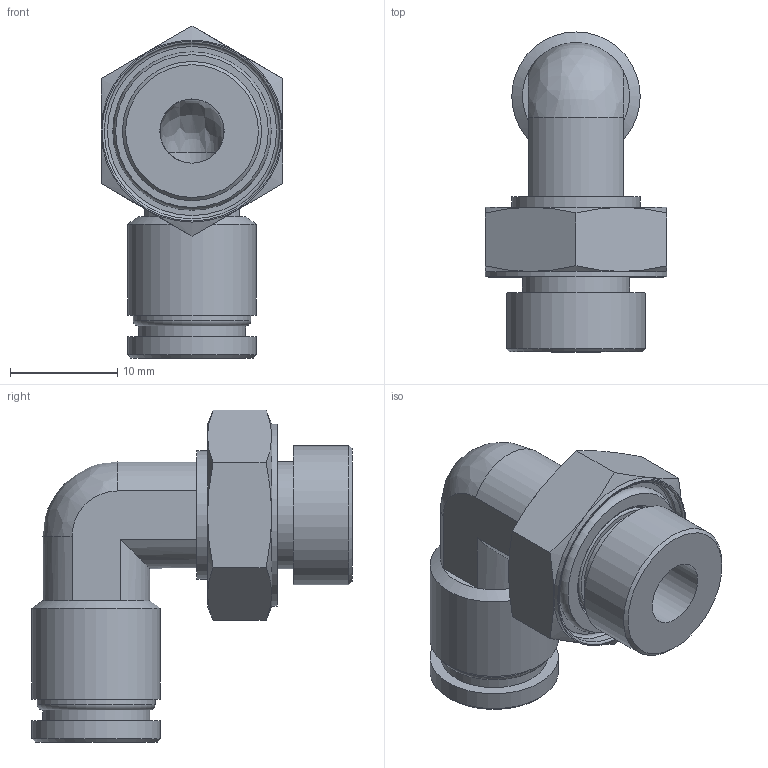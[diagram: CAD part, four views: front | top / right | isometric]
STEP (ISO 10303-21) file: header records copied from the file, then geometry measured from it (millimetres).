
FILE_DESCRIPTION(/* description */ (''),/* implementation_level */ '2;1');
FILE_NAME(/* name */ 'LXH28 0008 B2.stp',/* time_stamp */ '2026-04-30T12:41:08+02:00',/* author */ ('freju'),/* organization */ (''),/* preprocessor_version */ 'ST-DEVELOPER v20.1',/* originating_system */ 'Autodesk Inventor 2026',/* authorisation */ '');
FILE_SCHEMA (('AUTOMOTIVE_DESIGN { 1 0 10303 214 3 1 1 }'));
Length unit declared in the file: millimetre
Products named in the file (4): LXH28 0008 B2; LXH28 0008 B2_1; O-Ring; ISO 3601-1 - A 0112 G
Assembly tree (3 placements, depth 3):
  LXH28 0008 B2
    LXH28 0008 B2_1
    O-Ring
      ISO 3601-1 - A 0112 G
Bounding box: 17 x 29.9 x 31.02 mm (x, y, z)
Volume: 3564.9 mm3; surface area: 3566.6 mm2
Topology: 2 solids, 2 shells, 64 faces, 137 edges, 84 vertices
Faces by surface type: plane 23, cylinder 17, cone 15, torus 7, bspline 2
Full cylindrical faces by diameter (mm): 6 x2, 8 x1, 10 x2, 11 x1, 11.2 x1, 12 x3, 13 x1, 16.4 x1, 17 x1
Entity records: 1884 total; most frequent: CARTESIAN_POINT 372, DIRECTION 326, ORIENTED_EDGE 270, AXIS2_PLACEMENT_3D 146, EDGE_CURVE 135, VERTEX_POINT 84, EDGE_LOOP 77, CIRCLE 75
